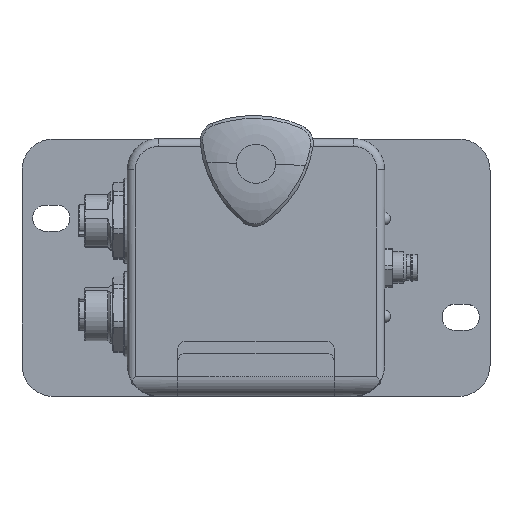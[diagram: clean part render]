
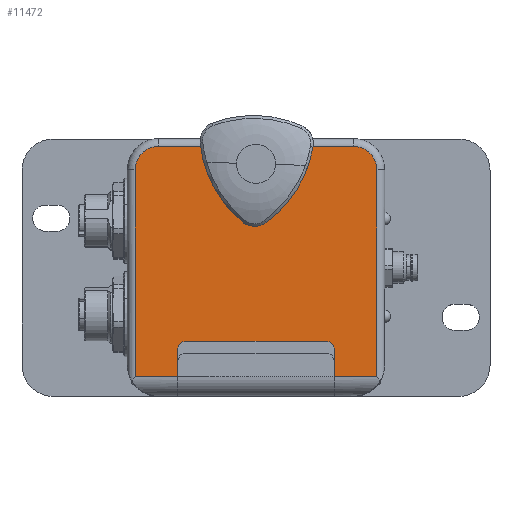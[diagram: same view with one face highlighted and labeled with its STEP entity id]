
A CAD part, top view. The second image highlights one B-rep face of the part: STEP entity #11472.
In plain terms, the highlighted planar face has unit normal (0, 0, 1) as drawn and (0, 1, 0) by its records, which use the part's own axes.
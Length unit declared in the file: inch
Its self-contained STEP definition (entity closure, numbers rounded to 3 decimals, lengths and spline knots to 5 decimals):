
#989 = VERTEX_POINT ( 'NONE', #40753 ) ;
#1259 = CARTESIAN_POINT ( 'NONE',  ( 1.17126, 2.3622, -0.04921 ) ) ;
#1746 = LINE ( 'NONE', #16255, #41943 ) ;
#2004 = DIRECTION ( 'NONE',  ( 0., 1., 0. ) ) ;
#2020 = LINE ( 'NONE', #45593, #38354 ) ;
#2292 = ORIENTED_EDGE ( 'NONE', *, *, #28465, .T. ) ;
#2582 = ORIENTED_EDGE ( 'NONE', *, *, #4678, .F. ) ;
#2645 = VECTOR ( 'NONE', #42476, 39.37008 ) ;
#2996 = AXIS2_PLACEMENT_3D ( 'NONE', #31100, #46330, #45862 ) ;
#3310 = ORIENTED_EDGE ( 'NONE', *, *, #31423, .T. ) ;
#3551 = DIRECTION ( 'NONE',  ( 1., 0., 0. ) ) ;
#3555 = VECTOR ( 'NONE', #44010, 39.37008 ) ;
#4151 = ORIENTED_EDGE ( 'NONE', *, *, #8754, .T. ) ;
#4276 = EDGE_CURVE ( 'NONE', #27267, #39267, #26937, .T. ) ;
#4292 = DIRECTION ( 'NONE',  ( 0., 0., -1. ) ) ;
#4389 = VERTEX_POINT ( 'NONE', #38536 ) ;
#4522 = VECTOR ( 'NONE', #3551, 39.37008 ) ;
#4579 = ORIENTED_EDGE ( 'NONE', *, *, #46084, .F. ) ;
#4629 = DIRECTION ( 'NONE',  ( 1., 0., 0. ) ) ;
#4678 = EDGE_CURVE ( 'NONE', #39267, #4389, #40356, .T. ) ;
#4728 = CARTESIAN_POINT ( 'NONE',  ( 2.51969, 2.3622, -2.08661 ) ) ;
#4837 = EDGE_CURVE ( 'NONE', #989, #36456, #41521, .T. ) ;
#4937 = VECTOR ( 'NONE', #18928, 39.37008 ) ;
#5336 = ORIENTED_EDGE ( 'NONE', *, *, #11036, .T. ) ;
#5590 = PLANE ( 'NONE',  #12490 ) ;
#5812 = CARTESIAN_POINT ( 'NONE',  ( 0.31496, 2.3622, 0. ) ) ;
#6375 = ORIENTED_EDGE ( 'NONE', *, *, #37289, .T. ) ;
#6830 = CIRCLE ( 'NONE', #31129, 0.23622 ) ;
#7396 = CARTESIAN_POINT ( 'NONE',  ( 0.31496, 2.3622, 0. ) ) ;
#7988 = DIRECTION ( 'NONE',  ( 0., 0., 1. ) ) ;
#8061 = VERTEX_POINT ( 'NONE', #4728 ) ;
#8066 = DIRECTION ( 'NONE',  ( -1., 0., 0. ) ) ;
#8377 = DIRECTION ( 'NONE',  ( 0., 1., 0. ) ) ;
#8386 = VERTEX_POINT ( 'NONE', #35435 ) ;
#8609 = CARTESIAN_POINT ( 'NONE',  ( 1.29921, 2.3622, -0.04921 ) ) ;
#8676 = ORIENTED_EDGE ( 'NONE', *, *, #25024, .T. ) ;
#8702 = AXIS2_PLACEMENT_3D ( 'NONE', #45012, #19752, #4292 ) ;
#8754 = EDGE_CURVE ( 'NONE', #36456, #36705, #44418, .T. ) ;
#8798 = CARTESIAN_POINT ( 'NONE',  ( 0.31496, 2.3622, 0.23622 ) ) ;
#8955 = EDGE_CURVE ( 'NONE', #29285, #989, #2020, .T. ) ;
#9484 = VECTOR ( 'NONE', #7988, 39.37008 ) ;
#9915 = CARTESIAN_POINT ( 'NONE',  ( 2.09055, 2.3622, -1.81496 ) ) ;
#10191 = ORIENTED_EDGE ( 'NONE', *, *, #8955, .T. ) ;
#10217 = EDGE_CURVE ( 'NONE', #38013, #20824, #1746, .T. ) ;
#10913 = LINE ( 'NONE', #18048, #4522 ) ;
#11036 = EDGE_CURVE ( 'NONE', #28999, #29285, #22138, .T. ) ;
#11472 = ADVANCED_FACE ( 'NONE', ( #37469 ), #5590, .T. ) ;
#12490 = AXIS2_PLACEMENT_3D ( 'NONE', #5812, #2004, #20315 ) ;
#13790 = AXIS2_PLACEMENT_3D ( 'NONE', #21292, #38274, #28220 ) ;
#14061 = CARTESIAN_POINT ( 'NONE',  ( 2.28346, 2.3622, 0.23622 ) ) ;
#14550 = CARTESIAN_POINT ( 'NONE',  ( 2.51969, 2.3622, -1.9685 ) ) ;
#15600 = CARTESIAN_POINT ( 'NONE',  ( 0.07874, 2.3622, 0. ) ) ;
#15644 = EDGE_CURVE ( 'NONE', #34731, #28999, #33282, .T. ) ;
#15835 = CARTESIAN_POINT ( 'NONE',  ( 1.17126, 2.3622, 0.67913 ) ) ;
#16134 = CARTESIAN_POINT ( 'NONE',  ( 1.42717, 2.3622, -0.04921 ) ) ;
#16255 = CARTESIAN_POINT ( 'NONE',  ( 1.42717, 2.3622, 0.67913 ) ) ;
#16833 = CARTESIAN_POINT ( 'NONE',  ( 1.29921, 2.3622, -0.17717 ) ) ;
#17883 = DIRECTION ( 'NONE',  ( 0., 0., -1. ) ) ;
#18048 = CARTESIAN_POINT ( 'NONE',  ( 2.28346, 2.3622, 0.23622 ) ) ;
#18214 = CARTESIAN_POINT ( 'NONE',  ( 2.00787, 2.3622, -1.73228 ) ) ;
#18571 = CARTESIAN_POINT ( 'NONE',  ( 0.50787, 2.3622, -1.81496 ) ) ;
#18928 = DIRECTION ( 'NONE',  ( 0., 0., 1. ) ) ;
#19724 = ORIENTED_EDGE ( 'NONE', *, *, #4837, .T. ) ;
#19752 = DIRECTION ( 'NONE',  ( 0., 1., 0. ) ) ;
#20106 = CARTESIAN_POINT ( 'NONE',  ( 0., 2.3622, -2.08661 ) ) ;
#20315 = DIRECTION ( 'NONE',  ( 0., 0., -1. ) ) ;
#20643 = CIRCLE ( 'NONE', #30540, 0.12795 ) ;
#20824 = VERTEX_POINT ( 'NONE', #16134 ) ;
#21292 = CARTESIAN_POINT ( 'NONE',  ( 0.59055, 2.3622, -1.81496 ) ) ;
#21295 = ORIENTED_EDGE ( 'NONE', *, *, #46694, .T. ) ;
#21613 = ORIENTED_EDGE ( 'NONE', *, *, #39278, .T. ) ;
#21814 = EDGE_LOOP ( 'NONE', ( #2582, #35592, #4579, #28866, #21613, #2292, #21295, #39209, #3310, #8676, #36131, #5336, #10191, #19724, #4151, #32835, #6375 ) ) ;
#21947 = LINE ( 'NONE', #29820, #23743 ) ;
#22138 = CIRCLE ( 'NONE', #13790, 0.08268 ) ;
#22896 = VECTOR ( 'NONE', #4629, 39.37008 ) ;
#22945 = LINE ( 'NONE', #36517, #22896 ) ;
#23512 = CIRCLE ( 'NONE', #2996, 0.08268 ) ;
#23742 = CARTESIAN_POINT ( 'NONE',  ( 0.07874, 2.3622, -2.08661 ) ) ;
#23743 = VECTOR ( 'NONE', #29104, 39.37008 ) ;
#24202 = CARTESIAN_POINT ( 'NONE',  ( 2.28346, 2.3622, 0. ) ) ;
#24317 = VERTEX_POINT ( 'NONE', #37407 ) ;
#25024 = EDGE_CURVE ( 'NONE', #30094, #34731, #23512, .T. ) ;
#25332 = CARTESIAN_POINT ( 'NONE',  ( 1.42717, 2.3622, 0.23622 ) ) ;
#25376 = CARTESIAN_POINT ( 'NONE',  ( 0.07874, 2.3622, 0. ) ) ;
#25443 = CARTESIAN_POINT ( 'NONE',  ( 0.50787, 2.3622, -1.73228 ) ) ;
#25697 = AXIS2_PLACEMENT_3D ( 'NONE', #7396, #28610, #17883 ) ;
#26887 = VERTEX_POINT ( 'NONE', #8798 ) ;
#26937 = CIRCLE ( 'NONE', #8702, 0.12795 ) ;
#27267 = VERTEX_POINT ( 'NONE', #16833 ) ;
#28220 = DIRECTION ( 'NONE',  ( 0., 0., -1. ) ) ;
#28465 = EDGE_CURVE ( 'NONE', #31724, #8386, #6830, .T. ) ;
#28610 = DIRECTION ( 'NONE',  ( 0., 1., 0. ) ) ;
#28843 = LINE ( 'NONE', #14550, #39626 ) ;
#28866 = ORIENTED_EDGE ( 'NONE', *, *, #10217, .F. ) ;
#28999 = VERTEX_POINT ( 'NONE', #34802 ) ;
#29104 = DIRECTION ( 'NONE',  ( 0., 0., 1. ) ) ;
#29285 = VERTEX_POINT ( 'NONE', #18571 ) ;
#29820 = CARTESIAN_POINT ( 'NONE',  ( 2.09055, 2.3622, -1.73228 ) ) ;
#30094 = VERTEX_POINT ( 'NONE', #9915 ) ;
#30540 = AXIS2_PLACEMENT_3D ( 'NONE', #8609, #8377, #33821 ) ;
#31100 = CARTESIAN_POINT ( 'NONE',  ( 2.00787, 2.3622, -1.81496 ) ) ;
#31129 = AXIS2_PLACEMENT_3D ( 'NONE', #24202, #41828, #34220 ) ;
#31423 = EDGE_CURVE ( 'NONE', #24317, #30094, #21947, .T. ) ;
#31724 = VERTEX_POINT ( 'NONE', #14061 ) ;
#31825 = VECTOR ( 'NONE', #8066, 39.37008 ) ;
#32398 = DIRECTION ( 'NONE',  ( 0., 0., -1. ) ) ;
#32835 = ORIENTED_EDGE ( 'NONE', *, *, #41710, .T. ) ;
#33282 = LINE ( 'NONE', #25443, #3555 ) ;
#33821 = DIRECTION ( 'NONE',  ( 0., 0., -1. ) ) ;
#34220 = DIRECTION ( 'NONE',  ( 0., 0., -1. ) ) ;
#34731 = VERTEX_POINT ( 'NONE', #18214 ) ;
#34802 = CARTESIAN_POINT ( 'NONE',  ( 0.59055, 2.3622, -1.73228 ) ) ;
#34853 = CIRCLE ( 'NONE', #25697, 0.23622 ) ;
#35435 = CARTESIAN_POINT ( 'NONE',  ( 2.51969, 2.3622, 0. ) ) ;
#35592 = ORIENTED_EDGE ( 'NONE', *, *, #4276, .F. ) ;
#36131 = ORIENTED_EDGE ( 'NONE', *, *, #15644, .T. ) ;
#36456 = VERTEX_POINT ( 'NONE', #23742 ) ;
#36517 = CARTESIAN_POINT ( 'NONE',  ( 2.28346, 2.3622, 0.23622 ) ) ;
#36705 = VERTEX_POINT ( 'NONE', #15600 ) ;
#37289 = EDGE_CURVE ( 'NONE', #26887, #4389, #10913, .T. ) ;
#37407 = CARTESIAN_POINT ( 'NONE',  ( 2.09055, 2.3622, -2.08661 ) ) ;
#37469 = FACE_OUTER_BOUND ( 'NONE', #21814, .T. ) ;
#38013 = VERTEX_POINT ( 'NONE', #25332 ) ;
#38274 = DIRECTION ( 'NONE',  ( 0., -1., 0. ) ) ;
#38354 = VECTOR ( 'NONE', #41078, 39.37008 ) ;
#38536 = CARTESIAN_POINT ( 'NONE',  ( 1.17126, 2.3622, 0.23622 ) ) ;
#39209 = ORIENTED_EDGE ( 'NONE', *, *, #42196, .T. ) ;
#39267 = VERTEX_POINT ( 'NONE', #1259 ) ;
#39278 = EDGE_CURVE ( 'NONE', #38013, #31724, #22945, .T. ) ;
#39626 = VECTOR ( 'NONE', #32398, 39.37008 ) ;
#40356 = LINE ( 'NONE', #15835, #9484 ) ;
#40753 = CARTESIAN_POINT ( 'NONE',  ( 0.50787, 2.3622, -2.08661 ) ) ;
#41078 = DIRECTION ( 'NONE',  ( 0., 0., -1. ) ) ;
#41157 = LINE ( 'NONE', #41384, #31825 ) ;
#41384 = CARTESIAN_POINT ( 'NONE',  ( 2.09055, 2.3622, -2.08661 ) ) ;
#41521 = LINE ( 'NONE', #20106, #2645 ) ;
#41710 = EDGE_CURVE ( 'NONE', #36705, #26887, #34853, .T. ) ;
#41713 = DIRECTION ( 'NONE',  ( 0., 0., -1. ) ) ;
#41828 = DIRECTION ( 'NONE',  ( 0., 1., 0. ) ) ;
#41943 = VECTOR ( 'NONE', #41713, 39.37008 ) ;
#42196 = EDGE_CURVE ( 'NONE', #8061, #24317, #41157, .T. ) ;
#42476 = DIRECTION ( 'NONE',  ( -1., 0., 0. ) ) ;
#44010 = DIRECTION ( 'NONE',  ( -1., 0., 0. ) ) ;
#44418 = LINE ( 'NONE', #25376, #4937 ) ;
#45012 = CARTESIAN_POINT ( 'NONE',  ( 1.29921, 2.3622, -0.04921 ) ) ;
#45593 = CARTESIAN_POINT ( 'NONE',  ( 0.50787, 2.3622, -1.73228 ) ) ;
#45862 = DIRECTION ( 'NONE',  ( 0., 0., -1. ) ) ;
#46084 = EDGE_CURVE ( 'NONE', #20824, #27267, #20643, .T. ) ;
#46330 = DIRECTION ( 'NONE',  ( 0., -1., 0. ) ) ;
#46694 = EDGE_CURVE ( 'NONE', #8386, #8061, #28843, .T. ) ;
